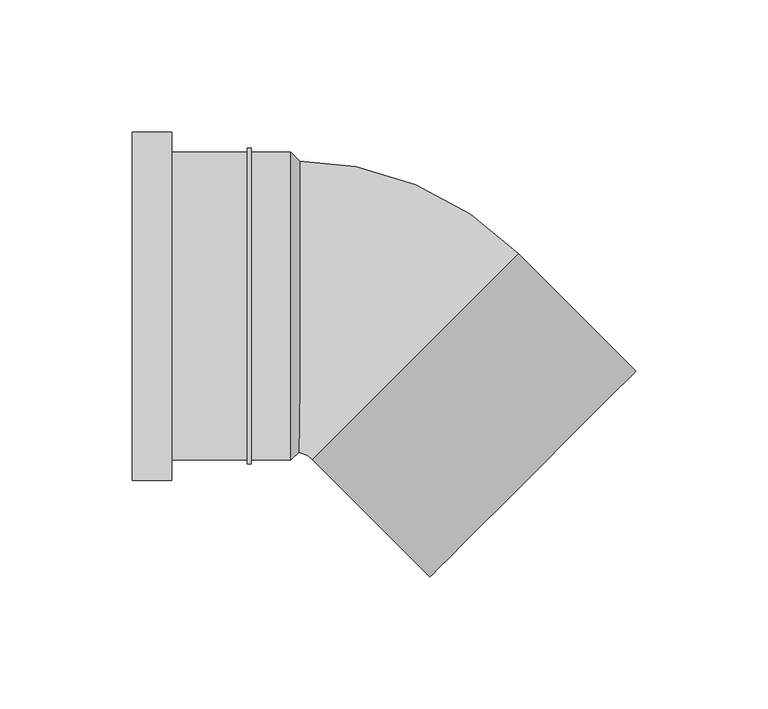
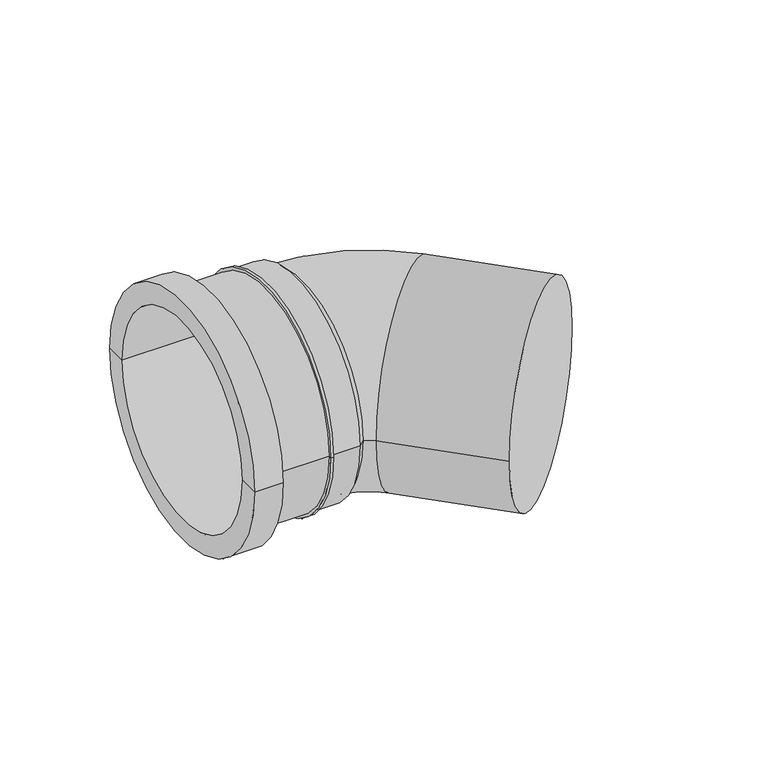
"""IFC4 building model written with IfcOpenShell, lengths in millimetres: pipe fitting geometry, UN_PIF_PP bend S-Sp_SH_PipeLife : Black, var. DN/OD (max. ø125, nested)."""

from ifc_helpers import new_model, si_unit, point, frame, origin, place, context, project, spatial, polyline, circle_curve, ellipse_curve, trimmed, source, transform, mapped, element, save
from ifc_brep_helpers import plane_surface, cylinder_surface, revolved_surface, advanced_brep


def pipe_fitting_f768adfa(model_context):
    return source(origin(), model_context, "Body", "AdvancedBrep", [
        advanced_brep(
        [(-24.7, -55.0, 0.0), (-28.0, -58.3, 0.0), (-28.0, 58.3, 0.0), (-24.7, 55.0, 0.0), (-88.2, -66.0, 0.0), (-88.2, -55.0, 0.0), (-88.2, 55.0, 0.0), (-88.2, 66.0, 0.0), (-73.15, -66.0, 0.0), (-73.15, 66.0, 0.0), (-73.15, -58.3, 0.0), (-73.15, 58.3, 0.0), (-44.6, -58.3, 0.0), (-44.6, 58.3, 0.0), (-44.6, -59.85, 0.0), (-44.6, 59.85, 0.0), (-43.05, -59.85, 0.0), (-43.05, 59.85, 0.0), (-43.05, -58.3, 0.0), (-43.05, 58.3, 0.0)],
        [
            (0, 1),
            (1, 2, circle_curve(frame((-28.0, 0.0, 0.0), z_axis=(1.0, 0.0, 0.0), x_axis=(0.0, 1.0, 0.0)), 58.3)),
            (2, 3),
            (3, 0, circle_curve(frame((-24.7, 0.0, 0.0), z_axis=(-1.0, 0.0, 0.0), x_axis=(0.0, 1.0, 0.0)), 55.0)),
            (2, 1, circle_curve(frame((-28.0, 0.0, 0.0), z_axis=(1.0, 0.0, 0.0), x_axis=(0.0, 1.0, 0.0)), 58.3)),
            (0, 3, circle_curve(frame((-24.7, 0.0, 0.0), z_axis=(-1.0, 0.0, 0.0), x_axis=(0.0, 1.0, 0.0)), 55.0)),
            (4, 5),
            (5, 6, circle_curve(frame((-88.2, 0.0, 0.0), z_axis=(1.0, 0.0, 0.0), x_axis=(0.0, 1.0, 0.0)), 55.0)),
            (6, 7),
            (7, 4, circle_curve(frame((-88.2, 0.0, 0.0), z_axis=(-1.0, 0.0, 0.0), x_axis=(0.0, 1.0, 0.0)), 66.0)),
            (6, 5, circle_curve(frame((-88.2, 0.0, 0.0), z_axis=(1.0, 0.0, 0.0), x_axis=(0.0, 1.0, 0.0)), 55.0)),
            (4, 7, circle_curve(frame((-88.2, 0.0, 0.0), z_axis=(-1.0, 0.0, 0.0), x_axis=(0.0, 1.0, 0.0)), 66.0)),
            (8, 4),
            (7, 9),
            (9, 8, circle_curve(frame((-73.15, 0.0, 0.0), z_axis=(-1.0, 0.0, 0.0), x_axis=(0.0, 1.0, 0.0)), 66.0)),
            (8, 9, circle_curve(frame((-73.15, 0.0, 0.0), z_axis=(-1.0, 0.0, 0.0), x_axis=(0.0, 1.0, 0.0)), 66.0)),
            (10, 8),
            (9, 11),
            (11, 10, circle_curve(frame((-73.15, 0.0, 0.0), z_axis=(-1.0, 0.0, 0.0), x_axis=(0.0, 1.0, 0.0)), 58.3)),
            (10, 11, circle_curve(frame((-73.15, 0.0, 0.0), z_axis=(-1.0, 0.0, 0.0), x_axis=(0.0, 1.0, 0.0)), 58.3)),
            (12, 10),
            (11, 13),
            (13, 12, circle_curve(frame((-44.6, 0.0, 0.0), z_axis=(-1.0, 0.0, 0.0), x_axis=(0.0, 1.0, 0.0)), 58.3)),
            (12, 13, circle_curve(frame((-44.6, 0.0, 0.0), z_axis=(-1.0, 0.0, 0.0), x_axis=(0.0, 1.0, 0.0)), 58.3)),
            (14, 12),
            (13, 15),
            (15, 14, circle_curve(frame((-44.6, 0.0, 0.0), z_axis=(-1.0, 0.0, 0.0), x_axis=(0.0, 1.0, 0.0)), 59.85)),
            (14, 15, circle_curve(frame((-44.6, 0.0, 0.0), z_axis=(-1.0, 0.0, 0.0), x_axis=(0.0, 1.0, 0.0)), 59.85)),
            (16, 14),
            (15, 17),
            (17, 16, circle_curve(frame((-43.05, 0.0, 0.0), z_axis=(-1.0, 0.0, 0.0), x_axis=(0.0, 1.0, 0.0)), 59.85)),
            (16, 17, circle_curve(frame((-43.05, 0.0, 0.0), z_axis=(-1.0, 0.0, 0.0), x_axis=(0.0, 1.0, 0.0)), 59.85)),
            (18, 16),
            (17, 19),
            (19, 18, circle_curve(frame((-43.05, 0.0, 0.0), z_axis=(-1.0, 0.0, 0.0), x_axis=(0.0, 1.0, 0.0)), 58.3)),
            (18, 19, circle_curve(frame((-43.05, 0.0, 0.0), z_axis=(-1.0, 0.0, 0.0), x_axis=(0.0, 1.0, 0.0)), 58.3)),
            (1, 18),
            (19, 2),
            (5, 0),
            (3, 6),
        ],
        [
            revolved_surface(polyline([(-28.0, 58.3, 0.0), (-24.7, 55.0, 0.0)]), (-88.2, 0.0, 0.0), (1.0, 0.0, 0.0)),
            plane_surface(frame((-88.2, 0.0, 0.0), z_axis=(-1.0, 0.0, 0.0), x_axis=(0.0, 1.0, 0.0))),
            cylinder_surface(frame((-88.2, 0.0, 0.0), z_axis=(1.0, 0.0, 0.0), x_axis=(0.0, 1.0, 0.0)), 66.0),
            plane_surface(frame((-73.15, 0.0, 0.0), z_axis=(1.0, 0.0, 0.0), x_axis=(0.0, 1.0, 0.0))),
            cylinder_surface(frame((-88.2, 0.0, 0.0), z_axis=(1.0, 0.0, 0.0), x_axis=(0.0, 1.0, 0.0)), 58.3),
            plane_surface(frame((-44.6, 0.0, 0.0), z_axis=(-1.0, 0.0, 0.0), x_axis=(0.0, 1.0, 0.0))),
            cylinder_surface(frame((-88.2, 0.0, 0.0), z_axis=(1.0, 0.0, 0.0), x_axis=(0.0, 1.0, 0.0)), 59.85),
            plane_surface(frame((-43.05, 0.0, 0.0), z_axis=(1.0, 0.0, 0.0), x_axis=(0.0, 1.0, 0.0))),
            revolved_surface(polyline([(-24.700000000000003, 55.0, 0.0), (-88.2, 55.0, 0.0)]), (-88.2, 0.0, 0.0), (1.0, 0.0, 0.0)),
        ],
        [
            (0, [[1, 2, 3, 4]]),
            (0, [[-3, 5, -1, 6]]),
            (1, [[7, 8, 9, 10]]),
            (1, [[-9, 11, -7, 12]]),
            (2, [[13, -10, 14, 15]]),
            (2, [[-14, -12, -13, 16]]),
            (3, [[17, -15, 18, 19]]),
            (3, [[-18, -16, -17, 20]]),
            (4, [[21, -19, 22, 23]]),
            (4, [[-22, -20, -21, 24]]),
            (5, [[25, -23, 26, 27]]),
            (5, [[-26, -24, -25, 28]]),
            (6, [[29, -27, 30, 31]]),
            (6, [[-30, -28, -29, 32]]),
            (7, [[33, -31, 34, 35]]),
            (7, [[-34, -32, -33, 36]]),
            (4, [[37, -35, 38, -2]]),
            (4, [[-38, -36, -37, -5]]),
            (8, [[39, -4, 40, -8]]),
            (8, [[-40, -6, -39, -11]]),
        ],
    ),
        advanced_brep(
        [(-28.0, 55.2, 0.0), (-28.0, -55.2, 0.0), (-27.0, -55.2, 0.0), (-27.0, 55.2, 0.0), (-19.9404112, -58.1241774, 0.0), (58.1241774, 19.9404112, 0.0), (102.6719046, -24.607316, 0.0), (24.607316, -102.6719046, 0.0)],
        [
            (0, 1, circle_curve(frame((-28.0, 0.0, 0.0), z_axis=(-1.0, 0.0, 0.0), x_axis=(0.0, -1.0, 0.0)), 55.2)),
            (1, 0, circle_curve(frame((-28.0, 0.0, 0.0), z_axis=(-1.0, 0.0, 0.0), x_axis=(0.0, -1.0, 0.0)), 55.2)),
            (1, 2),
            (2, 3, circle_curve(frame((-27.0, 0.0, 0.0), z_axis=(-1.0, 0.0, 0.0), x_axis=(0.0, -1.0, 0.0)), 55.2)),
            (3, 0),
            (3, 2, circle_curve(frame((-27.0, 0.0, 0.0), z_axis=(-1.0, 0.0, 0.0), x_axis=(0.0, -1.0, 0.0)), 55.2)),
            (4, 5, circle_curve(frame((19.0918831, -19.0918831, 0.0), z_axis=(-0.7071067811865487, 0.7071067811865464, 0.0), x_axis=(-0.7071067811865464, -0.7071067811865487, 0.0)), 55.2)),
            (5, 3, circle_curve(frame((-27.0, -65.1837662, 0.0), z_axis=(0.0, 0.0, 1.0), x_axis=(0.0, 1.0, 0.0)), 120.3837662)),
            (2, 4, circle_curve(frame((-27.0, -65.1837662, 0.0), z_axis=(0.0, 0.0, -1.0), x_axis=(0.0, 1.0, 0.0)), 9.9837662)),
            (5, 4, circle_curve(frame((19.0918831, -19.0918831, 0.0), z_axis=(-0.7071067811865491, 0.7071067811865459, 0.0), x_axis=(-0.7071067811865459, -0.7071067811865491, 0.0)), 55.2)),
            (6, 7, circle_curve(frame((63.6396103, -63.6396103, 0.0), z_axis=(0.707106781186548, -0.707106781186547, 0.0), x_axis=(-0.707106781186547, -0.707106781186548, 0.0)), 55.2)),
            (7, 6, circle_curve(frame((63.6396103, -63.6396103, 0.0), z_axis=(0.707106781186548, -0.707106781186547, 0.0), x_axis=(-0.707106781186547, -0.707106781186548, 0.0)), 55.2)),
            (4, 7),
            (6, 5),
        ],
        [
            plane_surface(frame((-28.0, 0.0, 0.0), z_axis=(-1.0, 0.0, 0.0), x_axis=(0.0, 0.0, 1.0))),
            cylinder_surface(frame((-28.0, 0.0, 0.0), z_axis=(-1.0, 0.0, 0.0), x_axis=(0.0, -1.0, 0.0)), 55.2),
            revolved_surface(trimmed(ellipse_curve(frame((-27.0, 0.0, 0.0), z_axis=(1.0, 0.0, 0.0), x_axis=(0.0, -1.0, 0.0)), 55.2, 55.2), [point((-27.0, 55.2, 0.0))], [point((-27.0, -55.2, 0.0))], True, "CARTESIAN"), (-27.0, -65.1837662, 0.0), (0.0, 0.0, 1.0)),
            revolved_surface(trimmed(ellipse_curve(frame((-27.0, 0.0, 0.0), z_axis=(1.0, 0.0, 0.0), x_axis=(0.0, -1.0, 0.0)), 55.2, 55.2), [point((-27.0, -55.2, 0.0))], [point((-27.0, 55.2, 0.0))], True, "CARTESIAN"), (-27.0, -65.1837662, 0.0), (0.0, 0.0, 1.0)),
            plane_surface(frame((63.6396103, -63.6396103, 0.0), z_axis=(0.707106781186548, -0.707106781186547, 0.0), x_axis=(0.0, 0.0, 1.0))),
            cylinder_surface(frame((19.0918831, -19.0918831, 0.0), z_axis=(-0.707106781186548, 0.707106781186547, 0.0), x_axis=(-0.707106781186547, -0.707106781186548, 0.0)), 55.2),
        ],
        [
            (0, [[1, 2]]),
            (1, [[3, 4, 5, -2]]),
            (1, [[-5, 6, -3, -1]]),
            (2, [[7, 8, -4, 9]]),
            (3, [[10, -9, -6, -8]]),
            (4, [[11, 12]]),
            (5, [[13, -11, 14, -7]]),
            (5, [[-14, -12, -13, -10]]),
        ],
    ),
    ])


if __name__ == "__main__":
    model = new_model("IFC4")
    model_context = context("Model", 3, world=origin())
    ifc_project = project(units=[si_unit("LENGTHUNIT", "METRE", prefix="MILLI")], contexts=[model_context])
    site = spatial("IfcSite", under=ifc_project)
    building = spatial("IfcBuilding", under=site)
    placement = place(None, origin())
    pipe_fitting_shape = pipe_fitting_f768adfa(model_context)
    element("IfcPipeFitting", 1, ObjectType="UN_PIF_PP bend S-Sp_SH_PipeLife : Black, var. DN/OD (max. ø125, nested)", at=placement, inside=building, context=model_context, shape_type="MappedRepresentation", body=[
        mapped(pipe_fitting_shape, transform((0.0, 0.0, 0.0), x_axis=(1.0, 0.0, 0.0), y_axis=(0.0, 1.0, 0.0), z_axis=(0.0, 0.0, 1.0))),
    ])
    save(model, "model.ifc")
